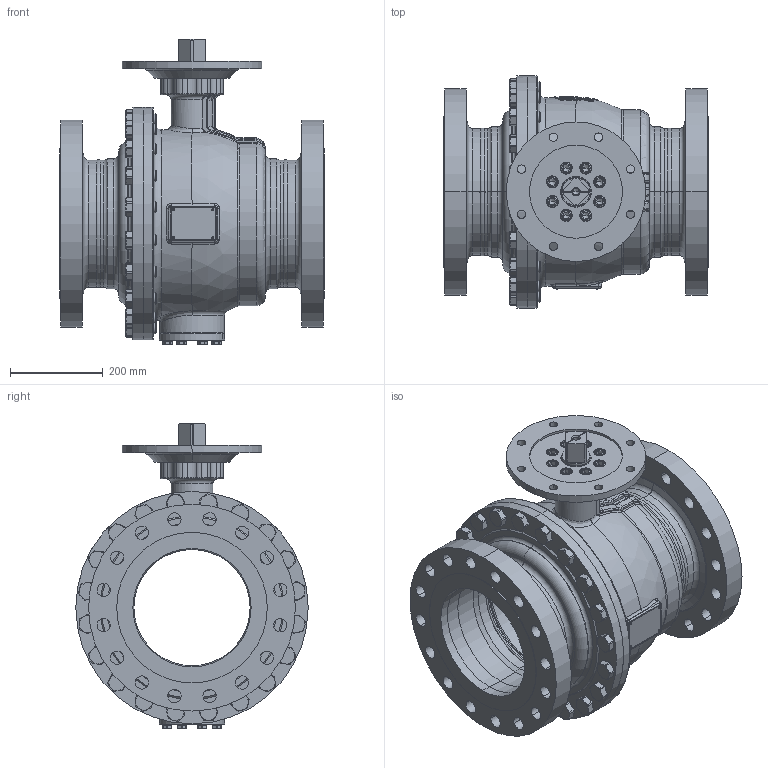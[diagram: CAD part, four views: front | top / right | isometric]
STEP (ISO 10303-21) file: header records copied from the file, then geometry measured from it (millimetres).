
FILE_DESCRIPTION((''),'2;1');
FILE_NAME('KHI-F_250_CL300-F25-4_SW0001','2026-02-05T14:32:01',('fischerkl'),('KLINGER'),'CREO PARAMETRIC BY PTC INC, 2023014','CREO PARAMETRIC BY PTC INC, 2023014','');
FILE_SCHEMA(('CONFIG_CONTROL_DESIGN'));
Products named in the file (1): KHI-F_250_CL300-F25-4_SW0001
Bounding box: 568 x 500 x 657.8 mm (x, y, z)
Volume: 27676464.3 mm3; surface area: 3742001.7 mm2
Topology: 1 solids, 4 shells, 3414 faces, 8687 edges, 5421 vertices
Faces by surface type: plane 1727, cylinder 822, cone 416, torus 310, bspline 97, sphere 42
Entity records: 140128 total; most frequent: CARTESIAN_POINT 58560, ORIENTED_EDGE 17294, DIRECTION 16812, EDGE_CURVE 8647, AXIS2_PLACEMENT_3D 6389, VERTEX_POINT 5420, VECTOR 4034, LINE 4034
